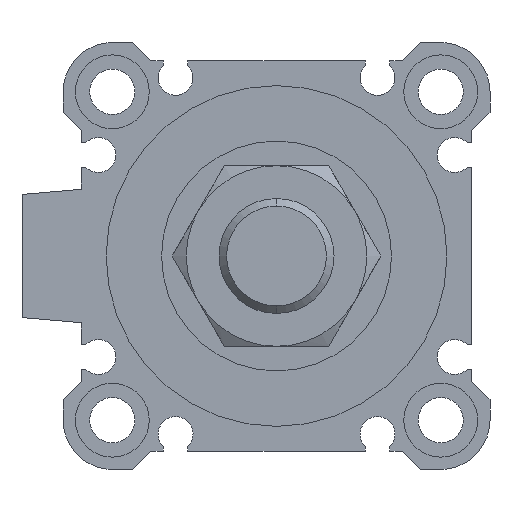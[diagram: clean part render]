
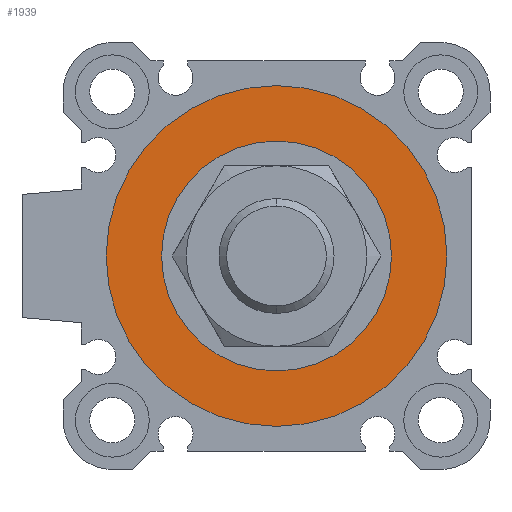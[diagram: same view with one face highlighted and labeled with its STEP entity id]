
A CAD part, left-side view. The second image highlights one B-rep face of the part: STEP entity #1939.
In plain terms, the highlighted planar face has unit normal (-1, 0, 0).
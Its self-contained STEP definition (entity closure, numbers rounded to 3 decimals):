
#60 = FACE_OUTER_BOUND ( 'NONE', #2196, .T. ) ;
#324 = AXIS2_PLACEMENT_3D ( 'NONE', #6199, #1334, #5168 ) ;
#392 = ORIENTED_EDGE ( 'NONE', *, *, #1117, .F. ) ;
#457 = DIRECTION ( 'NONE',  ( 0., 0., -1. ) ) ;
#818 = DIRECTION ( 'NONE',  ( 0., 0., -1. ) ) ;
#1117 = EDGE_CURVE ( 'NONE', #3710, #1458, #5311, .T. ) ;
#1334 = DIRECTION ( 'NONE',  ( 1., 0., 0. ) ) ;
#1363 = ORIENTED_EDGE ( 'NONE', *, *, #6086, .F. ) ;
#1458 = VERTEX_POINT ( 'NONE', #6027 ) ;
#1534 = CIRCLE ( 'NONE', #2783, 14. ) ;
#1666 = ORIENTED_EDGE ( 'NONE', *, *, #4852, .T. ) ;
#1862 = FACE_BOUND ( 'NONE', #6235, .T. ) ;
#1888 = DIRECTION ( 'NONE',  ( 1., 0., 0. ) ) ;
#1890 = CARTESIAN_POINT ( 'NONE',  ( 3.3, 0., -14. ) ) ;
#1939 = ADVANCED_FACE ( 'NONE', ( #60, #1862 ), #2960, .F. ) ;
#2134 = AXIS2_PLACEMENT_3D ( 'NONE', #2559, #6885, #457 ) ;
#2144 = DIRECTION ( 'NONE',  ( 1., 0., 0. ) ) ;
#2196 = EDGE_LOOP ( 'NONE', ( #1363, #392 ) ) ;
#2203 = AXIS2_PLACEMENT_3D ( 'NONE', #6753, #1888, #818 ) ;
#2388 = CARTESIAN_POINT ( 'NONE',  ( 3.3, 0., 0. ) ) ;
#2559 = CARTESIAN_POINT ( 'NONE',  ( 3.3, 0., 0. ) ) ;
#2783 = AXIS2_PLACEMENT_3D ( 'NONE', #2388, #6155, #2920 ) ;
#2920 = DIRECTION ( 'NONE',  ( 0., 0., -1. ) ) ;
#2960 = PLANE ( 'NONE',  #324 ) ;
#3024 = CARTESIAN_POINT ( 'NONE',  ( 3.3, 0., -20.75 ) ) ;
#3071 = DIRECTION ( 'NONE',  ( 0., 0., -1. ) ) ;
#3224 = CIRCLE ( 'NONE', #2203, 20.75 ) ;
#3710 = VERTEX_POINT ( 'NONE', #3024 ) ;
#3746 = VERTEX_POINT ( 'NONE', #1890 ) ;
#4852 = EDGE_CURVE ( 'NONE', #6278, #3746, #1534, .T. ) ;
#4908 = CARTESIAN_POINT ( 'NONE',  ( 3.3, 0., 14. ) ) ;
#5168 = DIRECTION ( 'NONE',  ( 0., 1., 0. ) ) ;
#5311 = CIRCLE ( 'NONE', #2134, 20.75 ) ;
#5393 = CIRCLE ( 'NONE', #5507, 14. ) ;
#5492 = EDGE_CURVE ( 'NONE', #3746, #6278, #5393, .T. ) ;
#5507 = AXIS2_PLACEMENT_3D ( 'NONE', #5833, #2144, #3071 ) ;
#5833 = CARTESIAN_POINT ( 'NONE',  ( 3.3, 0., 0. ) ) ;
#6027 = CARTESIAN_POINT ( 'NONE',  ( 3.3, 0., 20.75 ) ) ;
#6086 = EDGE_CURVE ( 'NONE', #1458, #3710, #3224, .T. ) ;
#6155 = DIRECTION ( 'NONE',  ( 1., 0., 0. ) ) ;
#6199 = CARTESIAN_POINT ( 'NONE',  ( 3.3, 0., 0. ) ) ;
#6235 = EDGE_LOOP ( 'NONE', ( #1666, #6630 ) ) ;
#6278 = VERTEX_POINT ( 'NONE', #4908 ) ;
#6630 = ORIENTED_EDGE ( 'NONE', *, *, #5492, .T. ) ;
#6753 = CARTESIAN_POINT ( 'NONE',  ( 3.3, 0., 0. ) ) ;
#6885 = DIRECTION ( 'NONE',  ( 1., 0., 0. ) ) ;
